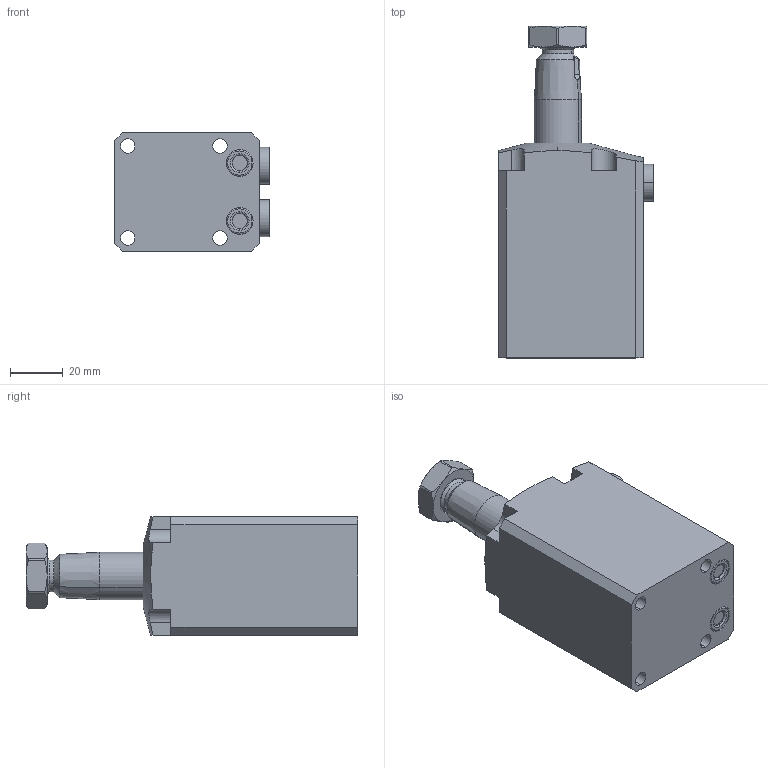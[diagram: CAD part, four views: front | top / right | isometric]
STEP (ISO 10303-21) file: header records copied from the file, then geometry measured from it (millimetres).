
FILE_DESCRIPTION(/* description */ (''),/* implementation_level */ '2;1');
FILE_NAME(/* name */ 'BRC02-LN30.stp',/* time_stamp */ '2025-01-05T09:22:59+08:00',/* author */ (''),/* organization */ (''),/* preprocessor_version */ 'ST-DEVELOPER v16.7',/* originating_system */ 'SIEMENS PLM Software NX 12.0',/* authorisation */ '');
FILE_SCHEMA (('AUTOMOTIVE_DESIGN { 1 0 10303 214 3 1 1 1 }'));
Length unit declared in the file: millimetre
Products named in the file (5): BRC02-LN30-03; BRC02-LN30-04; BRC02-LN30-02; BRC02-LN30-01; BRC02-LN30_stp
Assembly tree (5 placements, depth 2):
  BRC02-LN30_stp
    BRC02-LN30-01
    BRC02-LN30-02
    BRC02-LN30-04  x2
    BRC02-LN30-03
Bounding box: 58.8 x 126 x 45 mm (x, y, z)
Volume: 194529.1 mm3; surface area: 32563.9 mm2
Topology: 7 solids, 7 shells, 176 faces, 401 edges, 248 vertices
Faces by surface type: plane 68, cylinder 57, cone 34, torus 16, sphere 1
Full cylindrical faces by diameter (mm): 8.5 x2
Entity records: 4664 total; most frequent: CARTESIAN_POINT 961, DIRECTION 778, ORIENTED_EDGE 712, EDGE_CURVE 356, AXIS2_PLACEMENT_3D 313, VERTEX_POINT 222, EDGE_LOOP 180, ADVANCED_FACE 156
